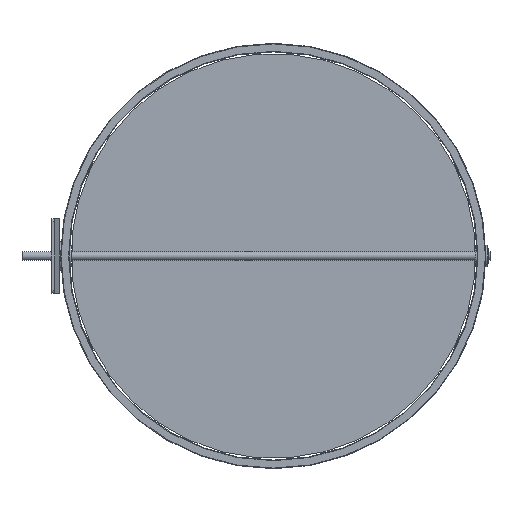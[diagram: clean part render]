
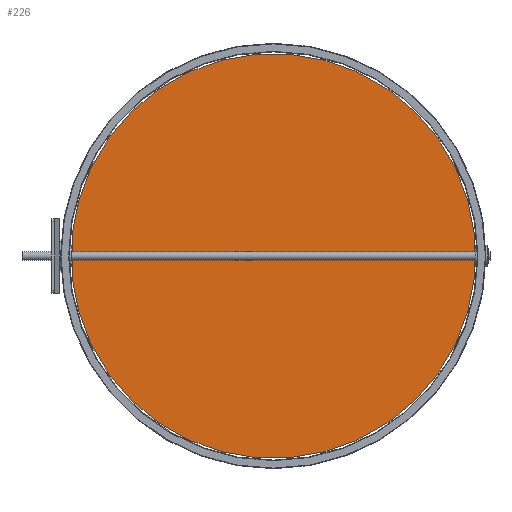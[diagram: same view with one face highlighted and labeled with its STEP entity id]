
A CAD part, left-side view. The second image highlights one B-rep face of the part: STEP entity #226.
In plain terms, the highlighted planar face has unit normal (-1, 0, 0).
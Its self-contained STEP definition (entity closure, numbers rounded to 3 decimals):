
#226=ADVANCED_FACE('',(#419,#420,#421,#422,#423,#424,#425,#426),#287,.T.);
#287=PLANE('',#1272);
#345=LINE('',#1826,#393);
#350=LINE('',#1840,#398);
#393=VECTOR('',#1483,1.);
#398=VECTOR('',#1496,1.);
#419=FACE_BOUND('',#561,.T.);
#420=FACE_BOUND('',#562,.T.);
#421=FACE_BOUND('',#563,.T.);
#422=FACE_BOUND('',#564,.T.);
#423=FACE_BOUND('',#565,.T.);
#424=FACE_BOUND('',#566,.T.);
#425=FACE_BOUND('',#567,.T.);
#426=FACE_BOUND('',#568,.T.);
#561=EDGE_LOOP('',(#803,#804,#805,#806));
#562=EDGE_LOOP('',(#807));
#563=EDGE_LOOP('',(#808));
#564=EDGE_LOOP('',(#809));
#565=EDGE_LOOP('',(#810));
#566=EDGE_LOOP('',(#811));
#567=EDGE_LOOP('',(#812));
#568=EDGE_LOOP('',(#813));
#803=ORIENTED_EDGE('',*,*,#1082,.T.);
#804=ORIENTED_EDGE('',*,*,#1061,.T.);
#805=ORIENTED_EDGE('',*,*,#1065,.T.);
#806=ORIENTED_EDGE('',*,*,#1068,.T.);
#807=ORIENTED_EDGE('',*,*,#1079,.T.);
#808=ORIENTED_EDGE('',*,*,#1077,.F.);
#809=ORIENTED_EDGE('',*,*,#1075,.F.);
#810=ORIENTED_EDGE('',*,*,#1073,.F.);
#811=ORIENTED_EDGE('',*,*,#1071,.F.);
#812=ORIENTED_EDGE('',*,*,#1069,.F.);
#813=ORIENTED_EDGE('',*,*,#1083,.F.);
#941=VERTEX_POINT('',#1825);
#942=VERTEX_POINT('',#1827);
#944=VERTEX_POINT('',#1833);
#946=VERTEX_POINT('',#1839);
#947=VERTEX_POINT('',#1843);
#949=VERTEX_POINT('',#1848);
#951=VERTEX_POINT('',#1853);
#953=VERTEX_POINT('',#1858);
#955=VERTEX_POINT('',#1863);
#957=VERTEX_POINT('',#1868);
#959=VERTEX_POINT('',#1876);
#1061=EDGE_CURVE('',#942,#941,#345,.T.);
#1065=EDGE_CURVE('',#941,#944,#1144,.T.);
#1068=EDGE_CURVE('',#944,#946,#350,.T.);
#1069=EDGE_CURVE('',#947,#947,#1145,.T.);
#1071=EDGE_CURVE('',#949,#949,#1147,.T.);
#1073=EDGE_CURVE('',#951,#951,#1149,.T.);
#1075=EDGE_CURVE('',#953,#953,#1151,.T.);
#1077=EDGE_CURVE('',#955,#955,#1153,.T.);
#1079=EDGE_CURVE('',#957,#957,#1155,.T.);
#1082=EDGE_CURVE('',#946,#942,#1158,.T.);
#1083=EDGE_CURVE('',#959,#959,#1159,.T.);
#1144=CIRCLE('',#1245,352.);
#1145=CIRCLE('',#1248,3.05);
#1147=CIRCLE('',#1251,3.05);
#1149=CIRCLE('',#1254,3.05);
#1151=CIRCLE('',#1257,3.05);
#1153=CIRCLE('',#1260,3.05);
#1155=CIRCLE('',#1263,3.05);
#1158=CIRCLE('',#1267,352.);
#1159=CIRCLE('',#1269,3.05);
#1245=AXIS2_PLACEMENT_3D('',#1834,#1490,#1491);
#1248=AXIS2_PLACEMENT_3D('',#1842,#1499,#1500);
#1251=AXIS2_PLACEMENT_3D('',#1847,#1505,#1506);
#1254=AXIS2_PLACEMENT_3D('',#1852,#1511,#1512);
#1257=AXIS2_PLACEMENT_3D('',#1857,#1517,#1518);
#1260=AXIS2_PLACEMENT_3D('',#1862,#1523,#1524);
#1263=AXIS2_PLACEMENT_3D('',#1867,#1529,#1530);
#1267=AXIS2_PLACEMENT_3D('',#1873,#1537,#1538);
#1269=AXIS2_PLACEMENT_3D('',#1875,#1541,#1542);
#1272=AXIS2_PLACEMENT_3D('',#1880,#1547,#1548);
#1483=DIRECTION('',(0.,0.,1.));
#1490=DIRECTION('',(-1.,0.,0.));
#1491=DIRECTION('',(0.,0.,1.));
#1496=DIRECTION('',(0.,0.,-1.));
#1499=DIRECTION('',(-1.,0.,0.));
#1500=DIRECTION('',(0.,0.,1.));
#1505=DIRECTION('',(-1.,0.,0.));
#1506=DIRECTION('',(0.,0.,1.));
#1511=DIRECTION('',(-1.,0.,0.));
#1512=DIRECTION('',(0.,0.,1.));
#1517=DIRECTION('',(-1.,0.,0.));
#1518=DIRECTION('',(0.,0.,1.));
#1523=DIRECTION('',(-1.,0.,0.));
#1524=DIRECTION('',(0.,0.,1.));
#1529=DIRECTION('',(1.,0.,0.));
#1530=DIRECTION('',(0.,0.,1.));
#1537=DIRECTION('',(-1.,0.,0.));
#1538=DIRECTION('',(0.,0.,1.));
#1541=DIRECTION('',(-1.,0.,0.));
#1542=DIRECTION('',(0.,0.,1.));
#1547=DIRECTION('',(-1.,0.,0.));
#1548=DIRECTION('',(0.,0.,1.));
#1825=CARTESIAN_POINT('',(-0.7,-459.,162.47));
#1826=CARTESIAN_POINT('',(-0.7,-459.,87.53));
#1827=CARTESIAN_POINT('',(-0.7,-459.,87.53));
#1833=CARTESIAN_POINT('',(-0.7,241.,162.47));
#1834=CARTESIAN_POINT('',(-0.7,-109.,125.));
#1839=CARTESIAN_POINT('',(-0.7,241.,87.53));
#1840=CARTESIAN_POINT('',(-0.7,241.,162.47));
#1842=CARTESIAN_POINT('',(-0.7,196.,125.));
#1843=CARTESIAN_POINT('',(-0.7,196.,128.05));
#1847=CARTESIAN_POINT('',(-0.7,-414.,125.));
#1848=CARTESIAN_POINT('',(-0.7,-414.,128.05));
#1852=CARTESIAN_POINT('',(-0.7,46.,125.));
#1853=CARTESIAN_POINT('',(-0.7,46.,128.05));
#1857=CARTESIAN_POINT('',(-0.7,-264.,125.));
#1858=CARTESIAN_POINT('',(-0.7,-264.,128.05));
#1862=CARTESIAN_POINT('',(-0.7,-109.,125.));
#1863=CARTESIAN_POINT('',(-0.7,-109.,128.05));
#1867=CARTESIAN_POINT('',(-0.7,-439.,125.));
#1868=CARTESIAN_POINT('',(-0.7,-439.,128.05));
#1873=CARTESIAN_POINT('',(-0.7,-109.,125.));
#1875=CARTESIAN_POINT('',(-0.7,221.,125.));
#1876=CARTESIAN_POINT('',(-0.7,221.,128.05));
#1880=CARTESIAN_POINT('',(-0.7,-109.,125.));
